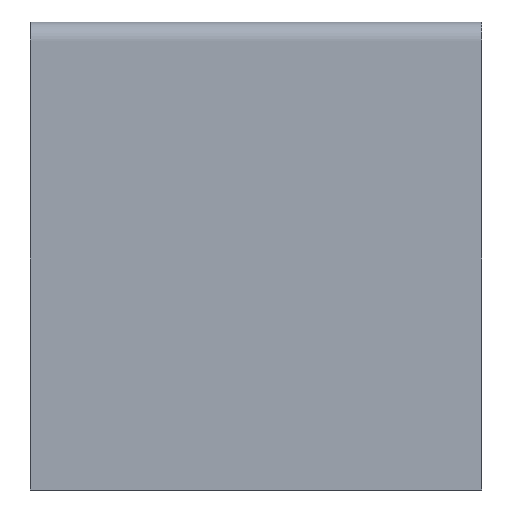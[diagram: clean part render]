
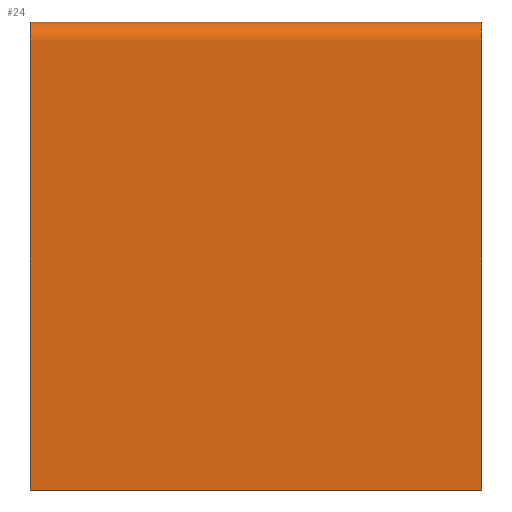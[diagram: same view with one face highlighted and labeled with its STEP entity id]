
A CAD part, left-side view. The second image highlights one B-rep face of the part: STEP entity #24.
In plain terms, the highlighted free-form (B-spline) face has degree [2, 1] with [7, 2] control points.
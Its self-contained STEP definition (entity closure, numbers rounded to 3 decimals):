
#24=ADVANCED_FACE($,(#42),#234,.T.);
#42=FACE_OUTER_BOUND($,#60,.T.);
#60=EDGE_LOOP($,(#94,#95,#96,#97));
#94=ORIENTED_EDGE($,*,*,#173,.T.);
#95=ORIENTED_EDGE($,*,*,#170,.T.);
#96=ORIENTED_EDGE($,*,*,#172,.F.);
#97=ORIENTED_EDGE($,*,*,#167,.F.);
#167=EDGE_CURVE($,#208,#207,#280,.T.);
#170=EDGE_CURVE($,#211,#210,#283,.T.);
#172=EDGE_CURVE($,#207,#210,#252,.T.);
#173=EDGE_CURVE($,#208,#211,#253,.T.);
#207=VERTEX_POINT($,#499);
#208=VERTEX_POINT($,#500);
#210=VERTEX_POINT($,#502);
#211=VERTEX_POINT($,#503);
#234=(
BOUNDED_SURFACE()
B_SPLINE_SURFACE(2,1,((#476,#477),(#478,#479),(#480,#481),(#482,#483),(#484,
#485),(#486,#487),(#488,#489)),.UNSPECIFIED.,.F.,.F.,.F.)
B_SPLINE_SURFACE_WITH_KNOTS((3,2,2,3),(2,2),(-2127.124,-1432.124,
-1385.,-15.),(0.,700.),.UNSPECIFIED.)
GEOMETRIC_REPRESENTATION_ITEM()
RATIONAL_B_SPLINE_SURFACE(((1.,1.),(1.,1.),(1.,1.),(0.707,0.707),
(1.,1.),(1.,1.),(1.,1.)))
REPRESENTATION_ITEM($)
SURFACE()
);
#252=B_SPLINE_CURVE_WITH_KNOTS($,1,(#450,#451),.UNSPECIFIED.,.F.,.F.,(2,
2),(0.,700.),.UNSPECIFIED.);
#253=B_SPLINE_CURVE_WITH_KNOTS($,1,(#452,#453),.UNSPECIFIED.,.F.,.F.,(2,
2),(0.,700.),.UNSPECIFIED.);
#280=(
BOUNDED_CURVE()
B_SPLINE_CURVE(2,(#424,#425,#426,#427,#428,#429,#430),.UNSPECIFIED.,.F.,
.F.)
B_SPLINE_CURVE_WITH_KNOTS((3,2,2,3),(15.,1385.,1432.124,2127.124),
.UNSPECIFIED.)
CURVE()
GEOMETRIC_REPRESENTATION_ITEM()
RATIONAL_B_SPLINE_CURVE((1.,1.,1.,0.707,1.,1.,1.))
REPRESENTATION_ITEM($)
);
#283=(
BOUNDED_CURVE()
B_SPLINE_CURVE(2,(#441,#442,#443,#444,#445,#446,#447),.UNSPECIFIED.,.F.,
.F.)
B_SPLINE_CURVE_WITH_KNOTS((3,2,2,3),(15.,1385.,1432.124,2127.124),
.UNSPECIFIED.)
CURVE()
GEOMETRIC_REPRESENTATION_ITEM()
RATIONAL_B_SPLINE_CURVE((1.,1.,1.,0.707,1.,1.,1.))
REPRESENTATION_ITEM($)
);
#424=CARTESIAN_POINT($,(1600.,0.,725.));
#425=CARTESIAN_POINT($,(615.,0.,725.));
#426=CARTESIAN_POINT($,(30.,0.,725.));
#427=CARTESIAN_POINT($,(0.,0.,725.));
#428=CARTESIAN_POINT($,(0.,0.,695.));
#429=CARTESIAN_POINT($,(0.,0.,347.5));
#430=CARTESIAN_POINT($,(0.,0.,0.));
#441=CARTESIAN_POINT($,(1600.,700.,725.));
#442=CARTESIAN_POINT($,(615.,700.,725.));
#443=CARTESIAN_POINT($,(30.,700.,725.));
#444=CARTESIAN_POINT($,(0.,700.,725.));
#445=CARTESIAN_POINT($,(0.,700.,695.));
#446=CARTESIAN_POINT($,(0.,700.,347.5));
#447=CARTESIAN_POINT($,(0.,700.,0.));
#450=CARTESIAN_POINT($,(0.,0.,0.));
#451=CARTESIAN_POINT($,(0.,700.,0.));
#452=CARTESIAN_POINT($,(1600.,0.,725.));
#453=CARTESIAN_POINT($,(1600.,700.,725.));
#476=CARTESIAN_POINT($,(0.,0.,0.));
#477=CARTESIAN_POINT($,(0.,700.,0.));
#478=CARTESIAN_POINT($,(0.,0.,347.5));
#479=CARTESIAN_POINT($,(0.,700.,347.5));
#480=CARTESIAN_POINT($,(0.,0.,695.));
#481=CARTESIAN_POINT($,(0.,700.,695.));
#482=CARTESIAN_POINT($,(0.,0.,725.));
#483=CARTESIAN_POINT($,(0.,700.,725.));
#484=CARTESIAN_POINT($,(30.,0.,725.));
#485=CARTESIAN_POINT($,(30.,700.,725.));
#486=CARTESIAN_POINT($,(615.,0.,725.));
#487=CARTESIAN_POINT($,(615.,700.,725.));
#488=CARTESIAN_POINT($,(1600.,0.,725.));
#489=CARTESIAN_POINT($,(1600.,700.,725.));
#499=CARTESIAN_POINT($,(0.,0.,0.));
#500=CARTESIAN_POINT($,(1600.,0.,725.));
#502=CARTESIAN_POINT($,(0.,700.,0.));
#503=CARTESIAN_POINT($,(1600.,700.,725.));
